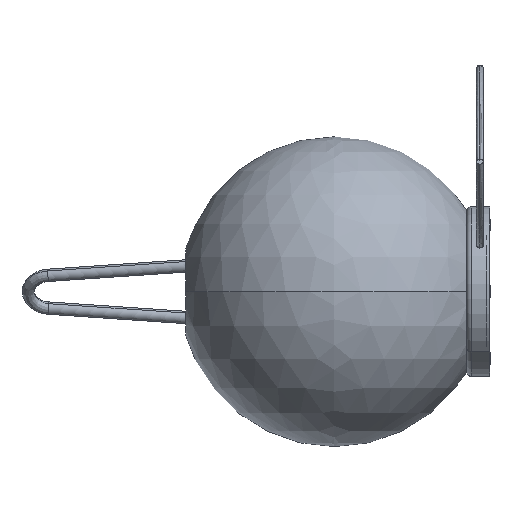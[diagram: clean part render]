
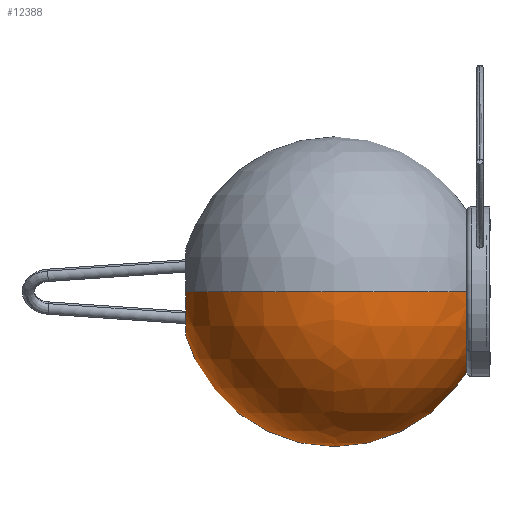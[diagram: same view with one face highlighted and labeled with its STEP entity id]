
A CAD part, left-side view. The second image highlights one B-rep face of the part: STEP entity #12388.
In plain terms, the highlighted spherical face has radius 100 mm.
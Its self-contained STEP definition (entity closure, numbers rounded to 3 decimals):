
#496 = DIRECTION ( 'NONE',  ( 0., -1., 0. ) ) ;
#681 = CIRCLE ( 'NONE', #10050, 100. ) ;
#823 = EDGE_LOOP ( 'NONE', ( #11595, #7205, #11489, #2528 ) ) ;
#1195 = VERTEX_POINT ( 'NONE', #1747 ) ;
#1747 = CARTESIAN_POINT ( 'NONE',  ( -28., -96., 0. ) ) ;
#2147 = DIRECTION ( 'NONE',  ( 0., 0., 1. ) ) ;
#2475 = FACE_OUTER_BOUND ( 'NONE', #823, .T. ) ;
#2528 = ORIENTED_EDGE ( 'NONE', *, *, #6043, .F. ) ;
#2799 = CIRCLE ( 'NONE', #12605, 100. ) ;
#2900 = CARTESIAN_POINT ( 'NONE',  ( -52.029, 85.399, 0. ) ) ;
#3394 = EDGE_CURVE ( 'NONE', #3772, #1195, #681, .T. ) ;
#3573 = SPHERICAL_SURFACE ( 'NONE', #12762, 100. ) ;
#3764 = CARTESIAN_POINT ( 'NONE',  ( 0., -96., 0. ) ) ;
#3772 = VERTEX_POINT ( 'NONE', #2900 ) ;
#3975 = CARTESIAN_POINT ( 'NONE',  ( 0., 85.399, 0. ) ) ;
#4637 = DIRECTION ( 'NONE',  ( 1., 0., 0. ) ) ;
#4996 = VERTEX_POINT ( 'NONE', #9216 ) ;
#5008 = DIRECTION ( 'NONE',  ( 1., 0., 0. ) ) ;
#5440 = CARTESIAN_POINT ( 'NONE',  ( 0., 0., 0. ) ) ;
#5736 = CARTESIAN_POINT ( 'NONE',  ( 52.029, 85.399, 0. ) ) ;
#5957 = AXIS2_PLACEMENT_3D ( 'NONE', #3975, #8937, #9079 ) ;
#6043 = EDGE_CURVE ( 'NONE', #1195, #4996, #8203, .T. ) ;
#7205 = ORIENTED_EDGE ( 'NONE', *, *, #12564, .T. ) ;
#8203 = CIRCLE ( 'NONE', #13013, 28. ) ;
#8937 = DIRECTION ( 'NONE',  ( 0., -1., 0. ) ) ;
#9079 = DIRECTION ( 'NONE',  ( 1., 0., 0. ) ) ;
#9216 = CARTESIAN_POINT ( 'NONE',  ( 28., -96., 0. ) ) ;
#9756 = DIRECTION ( 'NONE',  ( 0., 0., -1. ) ) ;
#9785 = EDGE_CURVE ( 'NONE', #12315, #4996, #2799, .T. ) ;
#10050 = AXIS2_PLACEMENT_3D ( 'NONE', #13412, #2147, #5008 ) ;
#10324 = CIRCLE ( 'NONE', #5957, 52.029 ) ;
#11489 = ORIENTED_EDGE ( 'NONE', *, *, #9785, .T. ) ;
#11595 = ORIENTED_EDGE ( 'NONE', *, *, #3394, .F. ) ;
#11698 = CARTESIAN_POINT ( 'NONE',  ( 0., 0., 0. ) ) ;
#11744 = DIRECTION ( 'NONE',  ( -1., 0., 0. ) ) ;
#11829 = DIRECTION ( 'NONE',  ( 1., 0., 0. ) ) ;
#12315 = VERTEX_POINT ( 'NONE', #5736 ) ;
#12388 = ADVANCED_FACE ( 'NONE', ( #2475 ), #3573, .T. ) ;
#12564 = EDGE_CURVE ( 'NONE', #3772, #12315, #10324, .T. ) ;
#12605 = AXIS2_PLACEMENT_3D ( 'NONE', #5440, #9756, #11744 ) ;
#12762 = AXIS2_PLACEMENT_3D ( 'NONE', #11698, #12857, #11829 ) ;
#12857 = DIRECTION ( 'NONE',  ( 0., 0., 1. ) ) ;
#13013 = AXIS2_PLACEMENT_3D ( 'NONE', #3764, #496, #4637 ) ;
#13412 = CARTESIAN_POINT ( 'NONE',  ( 0., 0., 0. ) ) ;
